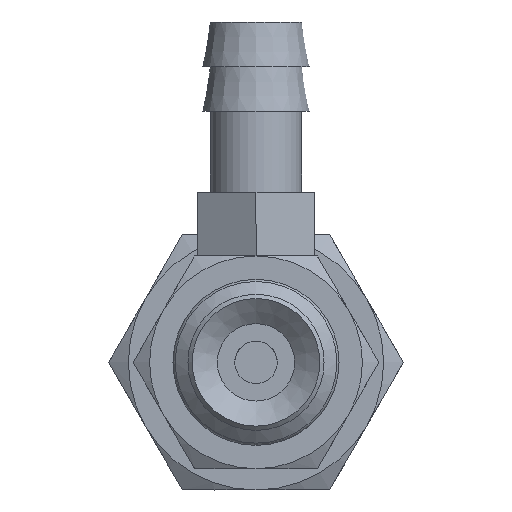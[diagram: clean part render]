
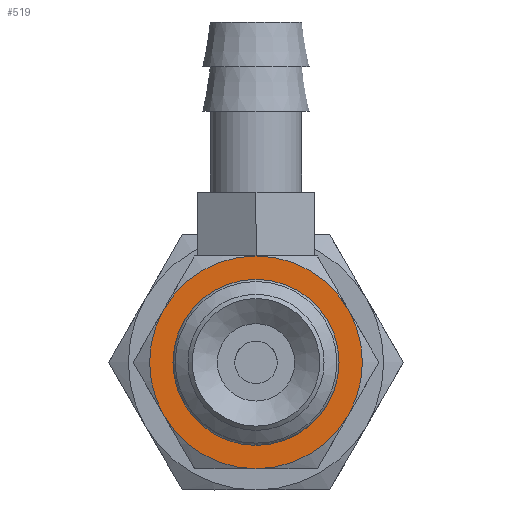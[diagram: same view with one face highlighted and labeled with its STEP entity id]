
A CAD part, front view. The second image highlights one B-rep face of the part: STEP entity #519.
In plain terms, the highlighted planar face has unit normal (0, -1, 0).
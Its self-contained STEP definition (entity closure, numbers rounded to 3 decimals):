
#519=ADVANCED_FACE('',(#742,#743),#744,.T.);
#742=FACE_BOUND('',#1083,.T.);
#743=FACE_OUTER_BOUND('',#1084,.T.);
#744=PLANE('',#1085);
#1083=EDGE_LOOP('',(#1716));
#1084=EDGE_LOOP('',(#1717,#1718,#1719,#1720,#1721,#1722));
#1085=AXIS2_PLACEMENT_3D('',#1723,#1724,#1725);
#1716=ORIENTED_EDGE('',*,*,#2307,.F.);
#1717=ORIENTED_EDGE('',*,*,#2306,.T.);
#1718=ORIENTED_EDGE('',*,*,#2308,.T.);
#1719=ORIENTED_EDGE('',*,*,#2309,.T.);
#1720=ORIENTED_EDGE('',*,*,#2262,.T.);
#1721=ORIENTED_EDGE('',*,*,#2292,.T.);
#1722=ORIENTED_EDGE('',*,*,#2275,.T.);
#1723=CARTESIAN_POINT('',(2.0,0.,0.0));
#1724=DIRECTION('',(0.0,-1.0,0.0));
#1725=DIRECTION('',(0.0,0.0,-1.0));
#2262=EDGE_CURVE('',#2569,#2561,#2571,.T.);
#2275=EDGE_CURVE('',#2595,#2592,#2596,.T.);
#2292=EDGE_CURVE('',#2561,#2595,#2623,.T.);
#2306=EDGE_CURVE('',#2592,#2648,#2650,.T.);
#2307=EDGE_CURVE('',#2651,#2651,#2652,.T.);
#2308=EDGE_CURVE('',#2648,#2653,#2654,.T.);
#2309=EDGE_CURVE('',#2653,#2569,#2655,.T.);
#2561=VERTEX_POINT('',#3259);
#2569=VERTEX_POINT('',#3275);
#2571=CIRCLE('',#3279,5.0);
#2592=VERTEX_POINT('',#3311);
#2595=VERTEX_POINT('',#3316);
#2596=CIRCLE('',#3317,5.0);
#2623=CIRCLE('',#3362,5.0);
#2648=VERTEX_POINT('',#3405);
#2650=CIRCLE('',#3409,5.0);
#2651=VERTEX_POINT('',#3410);
#2652=CIRCLE('',#3411,2.0);
#2653=VERTEX_POINT('',#3412);
#2654=CIRCLE('',#3413,5.0);
#2655=CIRCLE('',#3414,5.0);
#3259=CARTESIAN_POINT('',(-4.33,0.,2.5));
#3275=CARTESIAN_POINT('',(0.0,0.,5.0));
#3279=AXIS2_PLACEMENT_3D('',#3790,#3791,#3792);
#3311=CARTESIAN_POINT('',(0.0,0.,-5.0));
#3316=CARTESIAN_POINT('',(-4.33,0.,-2.5));
#3317=AXIS2_PLACEMENT_3D('',#3809,#3810,#3811);
#3362=AXIS2_PLACEMENT_3D('',#3829,#3830,#3831);
#3405=CARTESIAN_POINT('',(4.33,0.,-2.5));
#3409=AXIS2_PLACEMENT_3D('',#3854,#3855,#3856);
#3410=CARTESIAN_POINT('',(0.0,0.,-2.0));
#3411=AXIS2_PLACEMENT_3D('',#3857,#3858,#3859);
#3412=CARTESIAN_POINT('',(4.33,0.,2.5));
#3413=AXIS2_PLACEMENT_3D('',#3860,#3861,#3862);
#3414=AXIS2_PLACEMENT_3D('',#3863,#3864,#3865);
#3790=CARTESIAN_POINT('',(0.0,0.,0.0));
#3791=DIRECTION('',(0.0,-1.0,0.0));
#3792=DIRECTION('',(0.0,0.0,-1.0));
#3809=CARTESIAN_POINT('',(0.0,0.,0.0));
#3810=DIRECTION('',(0.0,-1.0,0.0));
#3811=DIRECTION('',(0.0,0.0,-1.0));
#3829=CARTESIAN_POINT('',(0.0,0.,0.0));
#3830=DIRECTION('',(0.0,-1.0,0.0));
#3831=DIRECTION('',(0.0,0.0,-1.0));
#3854=CARTESIAN_POINT('',(0.0,0.,0.0));
#3855=DIRECTION('',(0.0,-1.0,0.0));
#3856=DIRECTION('',(0.0,0.0,-1.0));
#3857=CARTESIAN_POINT('',(0.0,0.,0.0));
#3858=DIRECTION('',(0.0,-1.0,0.0));
#3859=DIRECTION('',(0.0,0.0,-1.0));
#3860=CARTESIAN_POINT('',(0.0,0.,0.0));
#3861=DIRECTION('',(0.0,-1.0,0.0));
#3862=DIRECTION('',(0.0,0.0,-1.0));
#3863=CARTESIAN_POINT('',(0.0,0.,0.0));
#3864=DIRECTION('',(0.0,-1.0,0.0));
#3865=DIRECTION('',(0.0,0.0,-1.0));
